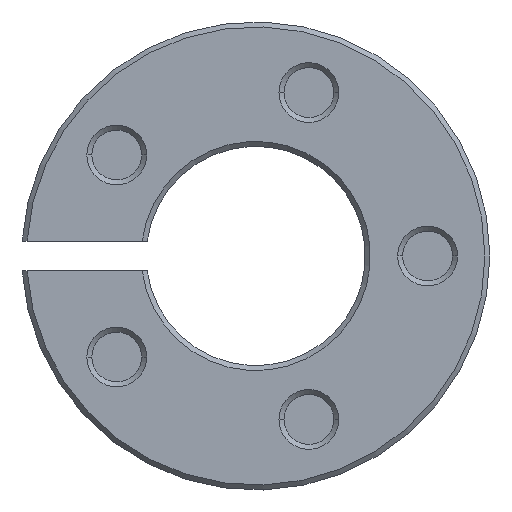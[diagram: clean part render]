
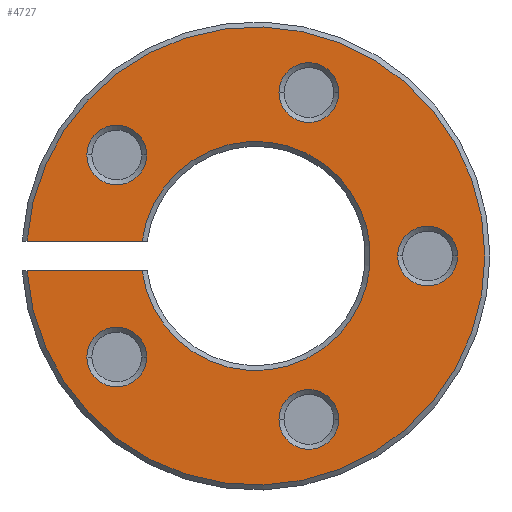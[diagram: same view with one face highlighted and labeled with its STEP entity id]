
A CAD part, left-side view. The second image highlights one B-rep face of the part: STEP entity #4727.
In plain terms, the highlighted planar face has unit normal (-1, 0, 0).
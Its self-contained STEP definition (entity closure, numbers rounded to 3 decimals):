
#1804=CARTESIAN_POINT('',(-28.,0.,0.));
#1805=DIRECTION('',(-1.,0.,0.));
#1806=DIRECTION('',(0.,0.998,-0.065));
#1807=AXIS2_PLACEMENT_3D('',#1804,#1805,#1806);
#1840=CARTESIAN_POINT('',(-28.,13.956,
-10.139));
#1841=DIRECTION('',(1.,0.,0.));
#1842=DIRECTION('',(0.,-1.,0.));
#1843=AXIS2_PLACEMENT_3D('',#1840,#1841,#1842);
#1848=CARTESIAN_POINT('',(-28.,13.956,
-10.139));
#1849=DIRECTION('',(1.,0.,0.));
#1850=DIRECTION('',(0.,1.,0.));
#1851=AXIS2_PLACEMENT_3D('',#1848,#1849,#1850);
#1856=CARTESIAN_POINT('',(-28.,-5.331,
-16.406));
#1857=DIRECTION('',(1.,0.,0.));
#1858=DIRECTION('',(0.,-1.,0.));
#1859=AXIS2_PLACEMENT_3D('',#1856,#1857,#1858);
#1864=CARTESIAN_POINT('',(-28.,-5.331,
-16.406));
#1865=DIRECTION('',(1.,0.,0.));
#1866=DIRECTION('',(0.,1.,0.));
#1867=AXIS2_PLACEMENT_3D('',#1864,#1865,#1866);
#1872=CARTESIAN_POINT('',(-28.,-17.25,0.));
#1873=DIRECTION('',(1.,0.,0.));
#1874=DIRECTION('',(0.,-1.,0.));
#1875=AXIS2_PLACEMENT_3D('',#1872,#1873,#1874);
#1880=CARTESIAN_POINT('',(-28.,-17.25,0.));
#1881=DIRECTION('',(1.,0.,0.));
#1882=DIRECTION('',(0.,1.,0.));
#1883=AXIS2_PLACEMENT_3D('',#1880,#1881,#1882);
#1888=CARTESIAN_POINT('',(-28.,-5.331,
16.406));
#1889=DIRECTION('',(1.,0.,0.));
#1890=DIRECTION('',(0.,-1.,0.));
#1891=AXIS2_PLACEMENT_3D('',#1888,#1889,#1890);
#1896=CARTESIAN_POINT('',(-28.,-5.331,
16.406));
#1897=DIRECTION('',(1.,0.,0.));
#1898=DIRECTION('',(0.,1.,0.));
#1899=AXIS2_PLACEMENT_3D('',#1896,#1897,#1898);
#1904=CARTESIAN_POINT('',(-28.,13.956,10.139));
#1905=DIRECTION('',(1.,0.,0.));
#1906=DIRECTION('',(0.,-1.,0.));
#1907=AXIS2_PLACEMENT_3D('',#1904,#1905,#1906);
#1912=CARTESIAN_POINT('',(-28.,13.956,10.139));
#1913=DIRECTION('',(1.,0.,0.));
#1914=DIRECTION('',(0.,1.,0.));
#1915=AXIS2_PLACEMENT_3D('',#1912,#1913,#1914);
#1920=DIRECTION('',(0.,-1.,0.));
#1921=VECTOR('',#1920,11.549);
#1922=CARTESIAN_POINT('',(-28.,22.951,-1.5));
#1923=LINE('',#1922,#1921);
#1927=DIRECTION('',(0.,-1.,0.));
#1928=VECTOR('',#1927,11.549);
#1929=CARTESIAN_POINT('',(-28.,22.951,1.5));
#1930=LINE('',#1929,#1928);
#2252=CARTESIAN_POINT('',(-28.,0.,0.));
#2253=DIRECTION('',(1.,0.,0.));
#2254=DIRECTION('',(0.,0.991,0.13));
#2255=AXIS2_PLACEMENT_3D('',#2252,#2253,#2254);
#2566=CARTESIAN_POINT('',(-28.,10.956,
-10.139));
#2567=CARTESIAN_POINT('',(-28.,16.956,
-10.139));
#2568=VERTEX_POINT('',#2566);
#2569=VERTEX_POINT('',#2567);
#2618=CARTESIAN_POINT('',(-28.,-8.331,
-16.406));
#2619=CARTESIAN_POINT('',(-28.,-2.331,
-16.406));
#2620=VERTEX_POINT('',#2618);
#2621=VERTEX_POINT('',#2619);
#2626=CARTESIAN_POINT('',(-28.,-20.25,0.));
#2627=CARTESIAN_POINT('',(-28.,-14.25,0.));
#2628=VERTEX_POINT('',#2626);
#2629=VERTEX_POINT('',#2627);
#2634=CARTESIAN_POINT('',(-28.,-8.331,
16.406));
#2635=CARTESIAN_POINT('',(-28.,-2.331,
16.406));
#2636=VERTEX_POINT('',#2634);
#2637=VERTEX_POINT('',#2635);
#2642=CARTESIAN_POINT('',(-28.,10.956,10.139));
#2643=CARTESIAN_POINT('',(-28.,16.956,10.139));
#2644=VERTEX_POINT('',#2642);
#2645=VERTEX_POINT('',#2643);
#2890=CARTESIAN_POINT('',(-28.,22.951,-1.5));
#2891=CARTESIAN_POINT('',(-28.,11.402,-1.5));
#2892=VERTEX_POINT('',#2890);
#2893=VERTEX_POINT('',#2891);
#2894=CARTESIAN_POINT('',(-28.,22.951,1.5));
#2895=CARTESIAN_POINT('',(-28.,11.402,1.5));
#2896=VERTEX_POINT('',#2894);
#2897=VERTEX_POINT('',#2895);
#4685=CARTESIAN_POINT('',(-28.,0.,0.));
#4686=DIRECTION('',(1.,0.,0.));
#4687=DIRECTION('',(0.,0.,-1.));
#4688=AXIS2_PLACEMENT_3D('',#4685,#4686,#4687);
#4689=PLANE('',#4688);
#4690=ORIENTED_EDGE('',*,*,#4504,.T.);
#4692=ORIENTED_EDGE('',*,*,#4691,.F.);
#4693=ORIENTED_EDGE('',*,*,#4573,.F.);
#4694=ORIENTED_EDGE('',*,*,#4665,.F.);
#4695=EDGE_LOOP('',(#4690,#4692,#4693,#4694));
#4696=FACE_OUTER_BOUND('',#4695,.F.);
#4698=ORIENTED_EDGE('',*,*,#4697,.F.);
#4700=ORIENTED_EDGE('',*,*,#4699,.F.);
#4701=EDGE_LOOP('',(#4698,#4700));
#4702=FACE_BOUND('',#4701,.F.);
#4704=ORIENTED_EDGE('',*,*,#4703,.F.);
#4706=ORIENTED_EDGE('',*,*,#4705,.F.);
#4707=EDGE_LOOP('',(#4704,#4706));
#4708=FACE_BOUND('',#4707,.F.);
#4710=ORIENTED_EDGE('',*,*,#4709,.F.);
#4712=ORIENTED_EDGE('',*,*,#4711,.F.);
#4713=EDGE_LOOP('',(#4710,#4712));
#4714=FACE_BOUND('',#4713,.F.);
#4716=ORIENTED_EDGE('',*,*,#4715,.F.);
#4718=ORIENTED_EDGE('',*,*,#4717,.F.);
#4719=EDGE_LOOP('',(#4716,#4718));
#4720=FACE_BOUND('',#4719,.F.);
#4722=ORIENTED_EDGE('',*,*,#4721,.F.);
#4724=ORIENTED_EDGE('',*,*,#4723,.F.);
#4725=EDGE_LOOP('',(#4722,#4724));
#4726=FACE_BOUND('',#4725,.F.);
#4727=ADVANCED_FACE('',(#4696,#4702,#4708,#4714,#4720,#4726),#4689,.F.);
#1808=CIRCLE('',#1807,23.);
#1844=CIRCLE('',#1843,3.);
#1852=CIRCLE('',#1851,3.);
#1860=CIRCLE('',#1859,3.);
#1868=CIRCLE('',#1867,3.);
#1876=CIRCLE('',#1875,3.);
#1884=CIRCLE('',#1883,3.);
#1892=CIRCLE('',#1891,3.);
#1900=CIRCLE('',#1899,3.);
#1908=CIRCLE('',#1907,3.);
#1916=CIRCLE('',#1915,3.);
#2256=CIRCLE('',#2255,11.5);
#4504=EDGE_CURVE('',#2892,#2893,#1923,.T.);
#4573=EDGE_CURVE('',#2896,#2897,#1930,.T.);
#4665=EDGE_CURVE('',#2892,#2896,#1808,.T.);
#4691=EDGE_CURVE('',#2897,#2893,#2256,.T.);
#4697=EDGE_CURVE('',#2568,#2569,#1844,.T.);
#4699=EDGE_CURVE('',#2569,#2568,#1852,.T.);
#4703=EDGE_CURVE('',#2620,#2621,#1860,.T.);
#4705=EDGE_CURVE('',#2621,#2620,#1868,.T.);
#4709=EDGE_CURVE('',#2628,#2629,#1876,.T.);
#4711=EDGE_CURVE('',#2629,#2628,#1884,.T.);
#4715=EDGE_CURVE('',#2636,#2637,#1892,.T.);
#4717=EDGE_CURVE('',#2637,#2636,#1900,.T.);
#4721=EDGE_CURVE('',#2644,#2645,#1908,.T.);
#4723=EDGE_CURVE('',#2645,#2644,#1916,.T.);
